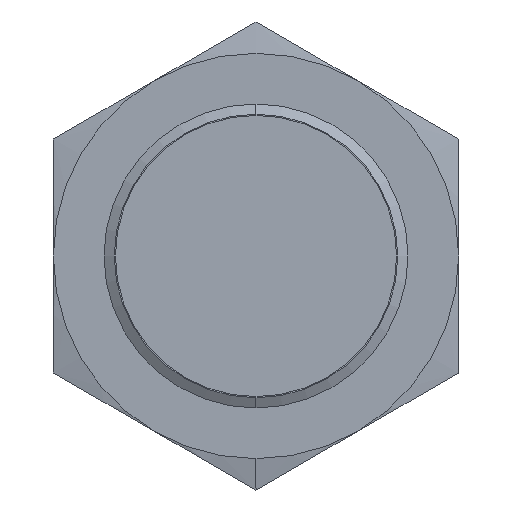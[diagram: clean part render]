
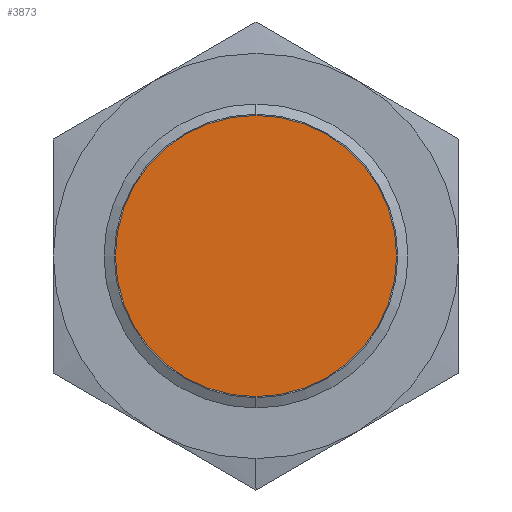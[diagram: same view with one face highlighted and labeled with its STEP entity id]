
A CAD part, left-side view. The second image highlights one B-rep face of the part: STEP entity #3873.
In plain terms, the highlighted planar face has unit normal (-1, 0, 0).
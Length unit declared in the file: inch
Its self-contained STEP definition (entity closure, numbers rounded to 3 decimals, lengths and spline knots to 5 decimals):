
#1606 = CIRCLE ( 'NONE', #1607, 0.3275 ) ;
#1607 = AXIS2_PLACEMENT_3D ( 'NONE', #1608, #1609, #1610 ) ;
#1608 = CARTESIAN_POINT ( 'NONE',  ( 7.30468, 8.44799, 0. ) ) ;
#1609 = DIRECTION ( 'NONE',  ( 1., 0., 0. ) ) ;
#1610 = DIRECTION ( 'NONE',  ( 0., 1., 0. ) ) ;
#3303 = ORIENTED_EDGE ( 'NONE', *, *, #9709, .F. ) ;
#3823 = EDGE_LOOP ( 'NONE', ( #3303, #5460 ) ) ;
#3873 = ADVANCED_FACE ( 'NONE', ( #7376 ), #7377, .F. ) ;
#4579 = VERTEX_POINT ( 'NONE', #10332 ) ;
#5392 = EDGE_CURVE ( 'NONE', #4579, #9471, #1606, .T. ) ;
#5460 = ORIENTED_EDGE ( 'NONE', *, *, #5392, .F. ) ;
#7376 = FACE_OUTER_BOUND ( 'NONE', #3823, .T. ) ;
#7377 = PLANE ( 'NONE',  #7378 ) ;
#7378 = AXIS2_PLACEMENT_3D ( 'NONE', #7379, #7380, #7381 ) ;
#7379 = CARTESIAN_POINT ( 'NONE',  ( 7.30468, 8.44799, 0. ) ) ;
#7380 = DIRECTION ( 'NONE',  ( 1., 0., 0. ) ) ;
#7381 = DIRECTION ( 'NONE',  ( 0., 1., 0. ) ) ;
#9471 = VERTEX_POINT ( 'NONE', #10497 ) ;
#9709 = EDGE_CURVE ( 'NONE', #9471, #4579, #10625, .T. ) ;
#10332 = CARTESIAN_POINT ( 'NONE',  ( 7.30468, 8.12049, 0. ) ) ;
#10497 = CARTESIAN_POINT ( 'NONE',  ( 7.30468, 8.77549, 0. ) ) ;
#10625 = CIRCLE ( 'NONE', #10626, 0.3275 ) ;
#10626 = AXIS2_PLACEMENT_3D ( 'NONE', #10627, #10628, #10629 ) ;
#10627 = CARTESIAN_POINT ( 'NONE',  ( 7.30468, 8.44799, 0. ) ) ;
#10628 = DIRECTION ( 'NONE',  ( 1., 0., 0. ) ) ;
#10629 = DIRECTION ( 'NONE',  ( 0., 1., 0. ) ) ;
